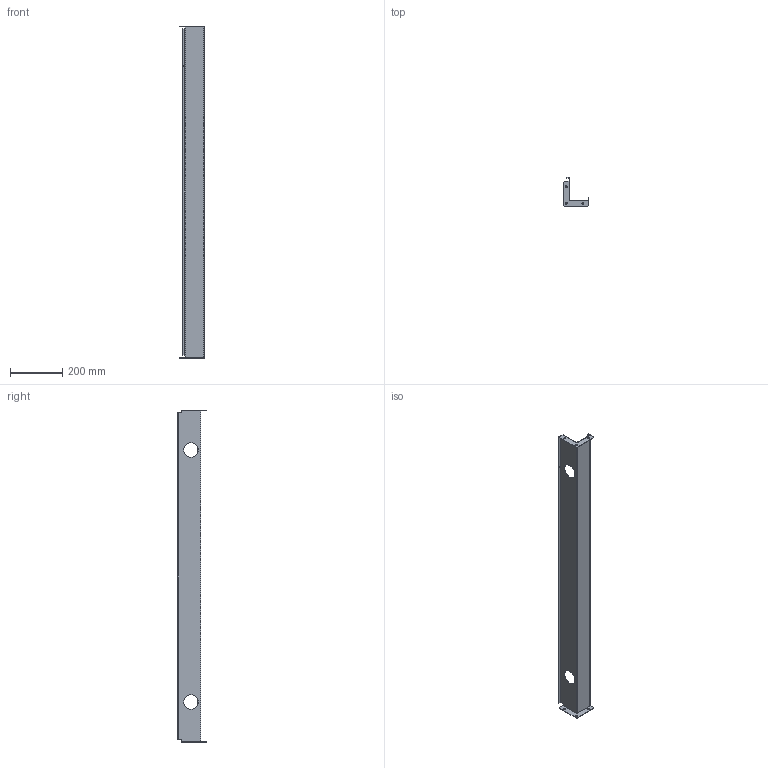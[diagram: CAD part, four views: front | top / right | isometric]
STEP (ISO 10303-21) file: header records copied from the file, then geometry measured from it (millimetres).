
FILE_DESCRIPTION (( 'STEP AP203' ), '1' );
FILE_NAME ('MILADESIGN kanál G2 ST201K–14_217634 a 218765 a 219259 a 219765_3D.STEP', '2022-02-24T06:42:25', ( '' ), ( '' ), 'SwSTEP 2.0', 'SolidWorks 2019', '' );
FILE_SCHEMA (( 'CONFIG_CONTROL_DESIGN' ));
Length unit declared in the file: millimetre
Products named in the file (1): MILADESIGN kanál G2 ST201K–14_217634 a 218765 a 219259 a 219765_3D
Bounding box: 95 x 110 x 1270 mm (x, y, z)
Volume: 238736 mm3; surface area: 468994.2 mm2
Topology: 3 solids, 3 shells, 76 faces, 194 edges, 124 vertices
Faces by surface type: plane 52, cylinder 24
Entity records: 2387 total; most frequent: DIRECTION 396, CARTESIAN_POINT 395, ORIENTED_EDGE 388, EDGE_CURVE 194, LINE 146, VECTOR 146, AXIS2_PLACEMENT_3D 125, VERTEX_POINT 124
